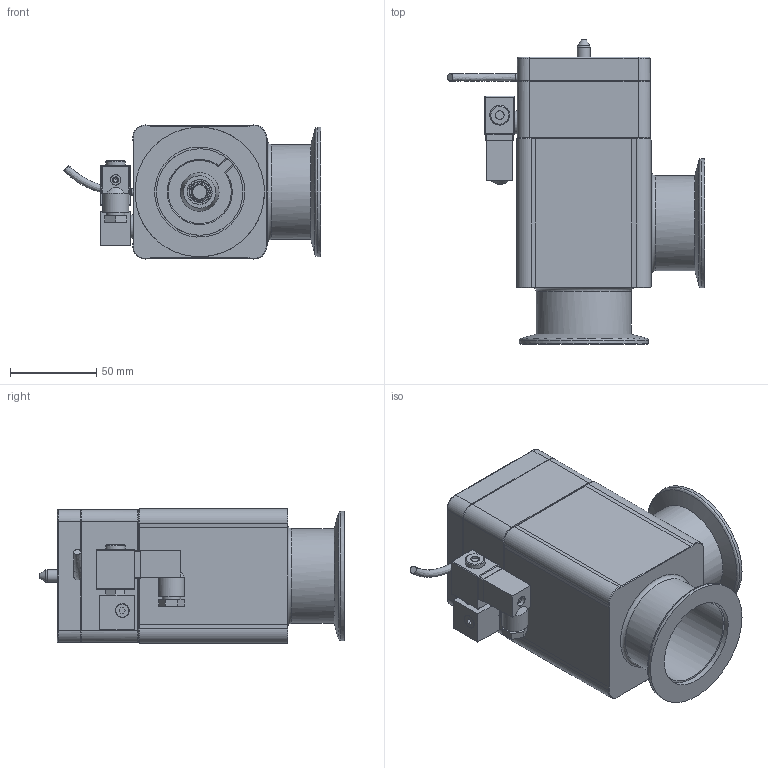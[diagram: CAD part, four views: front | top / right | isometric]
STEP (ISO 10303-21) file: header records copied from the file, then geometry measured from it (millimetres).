
FILE_DESCRIPTION((''),'2;1');
FILE_NAME('C:\Temp\Ideas\256279.stp','2005-01-27T09:12:06',('User'),( 'SDRC'),'I-DEAS Master Series 9','UNIX','Yes');
FILE_SCHEMA(('CONFIG_CONTROL_DESIGN'));
Length unit declared in the file: millimetre
Assembly tree (18 placements, depth 0):
Bounding box: 148.9 x 176 x 77.59 mm (x, y, z)
Volume: 322925 mm3; surface area: 167852.8 mm2
Topology: 22 solids, 25 shells, 780 faces, 1852 edges, 1201 vertices
Faces by surface type: bspline 780
Entity records: 23230 total; most frequent: CARTESIAN_POINT 11617, ORIENTED_EDGE 3170, EDGE_CURVE 1585, VERTEX_POINT 1013, EDGE_LOOP 787, FACE_OUTER_BOUND 670, ADVANCED_FACE 670, QUASI_UNIFORM_CURVE 582
